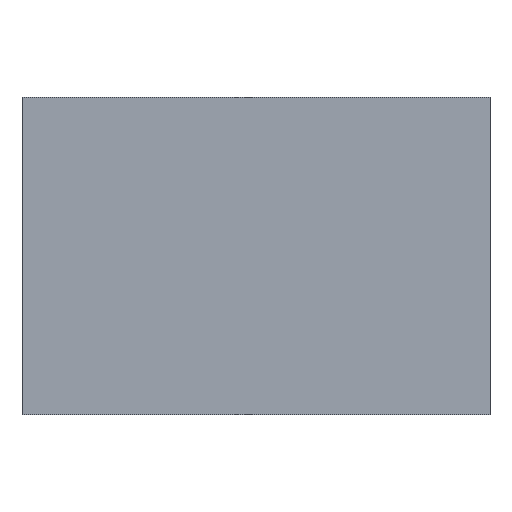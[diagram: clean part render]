
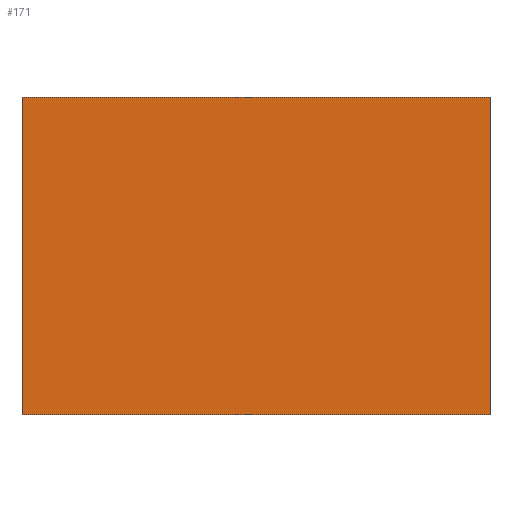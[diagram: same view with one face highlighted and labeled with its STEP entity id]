
A CAD part, top view. The second image highlights one B-rep face of the part: STEP entity #171.
In plain terms, the highlighted planar face has unit normal (0, 0, 1).
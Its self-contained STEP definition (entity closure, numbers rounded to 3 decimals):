
#42 = VERTEX_POINT('',#43);
#43 = CARTESIAN_POINT('',(280.,-190.,1.51));
#49 = EDGE_CURVE('',#42,#50,#52,.T.);
#50 = VERTEX_POINT('',#51);
#51 = CARTESIAN_POINT('',(0.,-190.,1.51));
#52 = LINE('',#53,#54);
#53 = CARTESIAN_POINT('',(280.,-190.,1.51));
#54 = VECTOR('',#55,1.);
#55 = DIRECTION('',(-1.,0.,0.));
#80 = EDGE_CURVE('',#50,#81,#83,.T.);
#81 = VERTEX_POINT('',#82);
#82 = CARTESIAN_POINT('',(0.,0.,1.51));
#83 = LINE('',#84,#85);
#84 = CARTESIAN_POINT('',(0.,-190.,1.51));
#85 = VECTOR('',#86,1.);
#86 = DIRECTION('',(0.,1.,0.));
#111 = EDGE_CURVE('',#81,#112,#114,.T.);
#112 = VERTEX_POINT('',#113);
#113 = CARTESIAN_POINT('',(280.,0.,1.51));
#114 = LINE('',#115,#116);
#115 = CARTESIAN_POINT('',(0.,0.,1.51));
#116 = VECTOR('',#117,1.);
#117 = DIRECTION('',(1.,0.,0.));
#142 = EDGE_CURVE('',#112,#42,#143,.T.);
#143 = LINE('',#144,#145);
#144 = CARTESIAN_POINT('',(280.,0.,1.51));
#145 = VECTOR('',#146,1.);
#146 = DIRECTION('',(0.,-1.,0.));
#171 = ADVANCED_FACE('',(#172),#178,.T.);
#172 = FACE_BOUND('',#173,.F.);
#173 = EDGE_LOOP('',(#174,#175,#176,#177));
#174 = ORIENTED_EDGE('',*,*,#49,.T.);
#175 = ORIENTED_EDGE('',*,*,#80,.T.);
#176 = ORIENTED_EDGE('',*,*,#111,.T.);
#177 = ORIENTED_EDGE('',*,*,#142,.T.);
#178 = PLANE('',#179);
#179 = AXIS2_PLACEMENT_3D('',#180,#181,#182);
#180 = CARTESIAN_POINT('',(0.,0.,1.51));
#181 = DIRECTION('',(0.,0.,1.));
#182 = DIRECTION('',(1.,0.,-0.));
